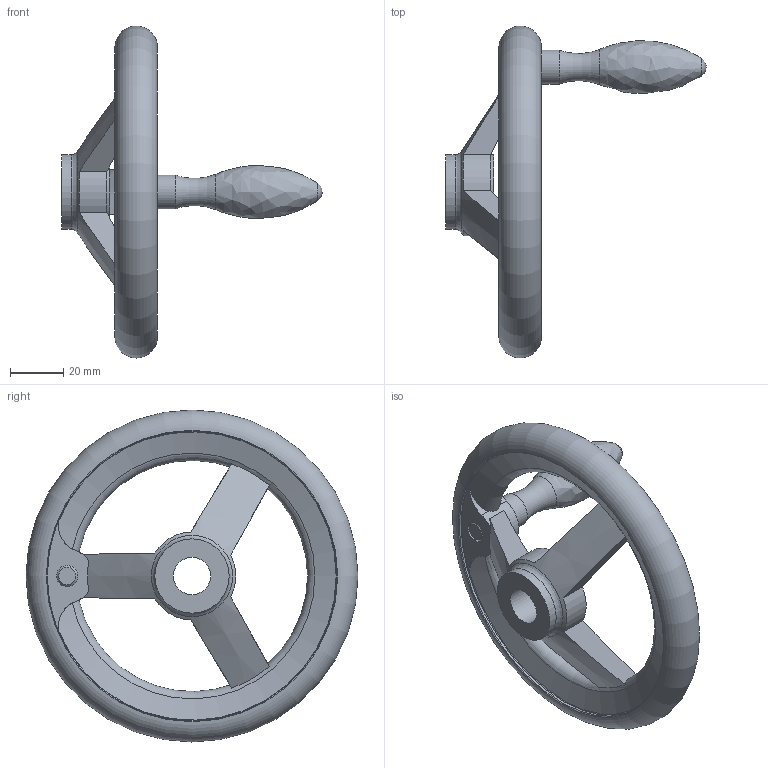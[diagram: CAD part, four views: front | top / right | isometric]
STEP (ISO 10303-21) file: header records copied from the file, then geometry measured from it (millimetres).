
FILE_DESCRIPTION( ( 'STEP AP203' ), '1' );
FILE_NAME( 'C:/Temp/Ganter_Step_05_03_2020/data/1_3/din_950/din_950_b/din_950_b_f/Handwheel DIN 950-AL-125-B14-F.stp', '2020-03-05T10:30:06', ( 'License CC BY-ND 4.0' ), ( 'CADENAS' ), ' ', 'PARTsolutions', ' ' );
FILE_SCHEMA( ( 'CONFIG_CONTROL_DESIGN' ) );
Length unit declared in the file: millimetre
Products named in the file (1): _Handwheel DIN 950-AL-125-B14-F
Bounding box: 98 x 125 x 125 mm (x, y, z)
Volume: 103994.6 mm3; surface area: 29582.6 mm2
Topology: 1 solids, 1 shells, 44 faces, 122 edges, 77 vertices
Faces by surface type: cylinder 15, torus 11, plane 11, cone 5, bspline 1, sphere 1
Full cylindrical faces by diameter (mm): 8 x1, 12.8 x1, 14 x1, 28 x2, 109 x2
Entity records: 1643 total; most frequent: CARTESIAN_POINT 612, DIRECTION 194, ORIENTED_EDGE 192, EDGE_CURVE 96, AXIS2_PLACEMENT_3D 91, VERTEX_POINT 73, EDGE_LOOP 69, FACE_OUTER_BOUND 60
